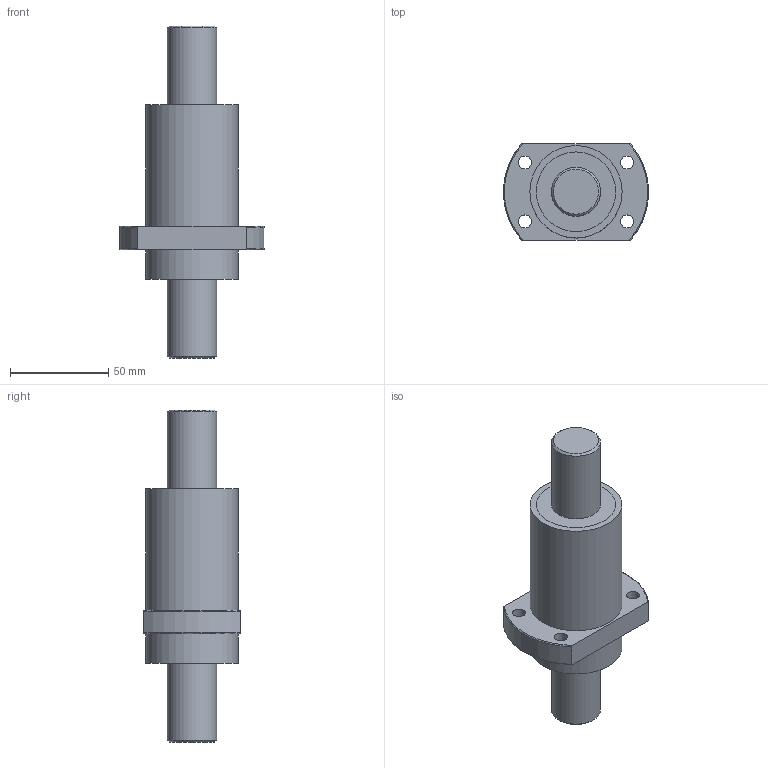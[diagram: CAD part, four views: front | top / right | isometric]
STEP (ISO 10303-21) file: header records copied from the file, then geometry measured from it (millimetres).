
FILE_DESCRIPTION(/* description */ (''),/* implementation_level */ '2;1');
FILE_NAME(/* name */ 'SFY25251.stp',/* time_stamp */ '2016-08-11T13:17:46+08:00',/* author */ (''),/* organization */ (''),/* preprocessor_version */ 'ST-DEVELOPER v11',/* originating_system */ 'SIEMENS UGS NX 6.0',/* authorisation */ '');
FILE_SCHEMA (('CONFIG_CONTROL_DESIGN'));
Length unit declared in the file: millimetre
Products named in the file (1): fannD4BFpz9g
Bounding box: 73.76 x 49 x 169 mm (x, y, z)
Volume: 211211.4 mm3; surface area: 48760.7 mm2
Topology: 4 solids, 4 shells, 52 faces, 97 edges, 65 vertices
Faces by surface type: cylinder 24, plane 22, torus 4, cone 2
Full cylindrical faces by diameter (mm): 6.6 x4, 25 x4, 38 x4, 40.5 x4, 42 x4, 47 x2
Entity records: 1410 total; most frequent: CARTESIAN_POINT 324, DIRECTION 224, ORIENTED_EDGE 140, AXIS2_PLACEMENT_3D 108, EDGE_LOOP 102, FACE_BOUND 92, EDGE_CURVE 70, VERTEX_POINT 62
